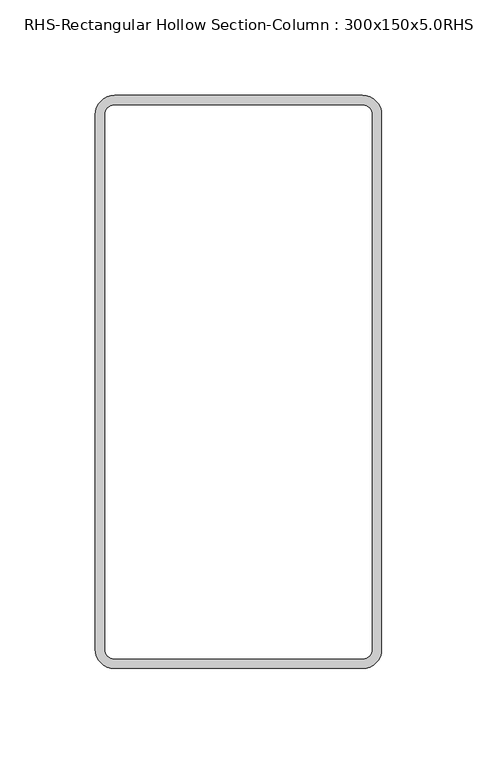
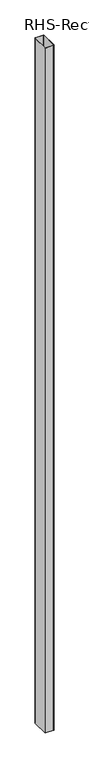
"""IFC4 building model written with IfcOpenShell, lengths in millimetres: column geometry, RHS-Rectangular Hollow Section-Column : 300x150x5.0RHS."""

from ifc_helpers import new_model, si_unit, point, frame, frame_2d, origin, place, context, project, spatial, polyline, circle_curve, trimmed, segment, composite_curve, outline, extrude, source, transform, mapped, element, save


def rhs_rectangular_hollow_section_column_300x150x5_0rhs_ee9d9ef0(model_context):
    return source(origin(), model_context, "Body", "SweptSolid", [
        extrude(outline(composite_curve([segment(trimmed(circle_curve(frame_2d((65.0, 140.0)), 10.0), [point((65.0, 150.0))], [point((75.0, 140.0))], False, "CARTESIAN"), True, "CONTINUOUS"), segment(polyline([(75.0, 140.0), (75.0, -140.0)]), True, "CONTINUOUS"), segment(trimmed(circle_curve(frame_2d((65.0, -140.0)), 10.0), [point((75.0, -140.0))], [point((65.0, -150.0))], False, "CARTESIAN"), True, "CONTINUOUS"), segment(polyline([(65.0, -150.0), (-65.0, -150.0)]), True, "CONTINUOUS"), segment(trimmed(circle_curve(frame_2d((-65.0, -140.0)), 10.0), [point((-65.0, -150.0))], [point((-75.0, -140.0))], False, "CARTESIAN"), True, "CONTINUOUS"), segment(polyline([(-75.0, -140.0), (-75.0, 140.0)]), True, "CONTINUOUS"), segment(trimmed(circle_curve(frame_2d((-65.0, 140.0)), 10.0), [point((-75.0, 140.0))], [point((-65.0, 150.0))], False, "CARTESIAN"), True, "CONTINUOUS"), segment(polyline([(-65.0, 150.0), (65.0, 150.0)]), True, "CONTINUOUS")], self_intersect=False), holes=[composite_curve([segment(polyline([(65.0, 145.0), (-65.0, 145.0)]), True, "CONTINUOUS"), segment(trimmed(circle_curve(frame_2d((-65.0, 140.0)), 5.0), [point((-65.0, 145.0))], [point((-70.0, 140.0))], True, "CARTESIAN"), True, "CONTINUOUS"), segment(polyline([(-70.0, 140.0), (-70.0, -140.0)]), True, "CONTINUOUS"), segment(trimmed(circle_curve(frame_2d((-65.0, -140.0)), 5.0), [point((-70.0, -140.0))], [point((-65.0, -145.0))], True, "CARTESIAN"), True, "CONTINUOUS"), segment(polyline([(-65.0, -145.0), (65.0, -145.0)]), True, "CONTINUOUS"), segment(trimmed(circle_curve(frame_2d((65.0, -140.0)), 5.0), [point((65.0, -145.0))], [point((70.0, -140.0))], True, "CARTESIAN"), True, "CONTINUOUS"), segment(polyline([(70.0, -140.0), (70.0, 140.0)]), True, "CONTINUOUS"), segment(trimmed(circle_curve(frame_2d((65.0, 140.0)), 5.0), [point((70.0, 140.0))], [point((65.0, 145.0))], True, "CARTESIAN"), True, "CONTINUOUS")], self_intersect=False)]), frame((0.0, 0.0, 25860.0), z_axis=(0.0, 0.0, 1.0), x_axis=(1.0, 0.0, 0.0)), (0.0, 0.0, 1.0), 12000.0),
    ])


if __name__ == "__main__":
    model = new_model("IFC4")
    model_context = context("Model", 3, world=origin())
    ifc_project = project(units=[si_unit("LENGTHUNIT", "METRE", prefix="MILLI")], contexts=[model_context])
    site = spatial("IfcSite", under=ifc_project)
    building = spatial("IfcBuilding", under=site)
    placement = place(None, origin())
    rhs_rectangular_hollow_section_column_300x150x5_0rhs_shape = rhs_rectangular_hollow_section_column_300x150x5_0rhs_ee9d9ef0(model_context)
    element("IfcColumn", 1, ObjectType="RHS-Rectangular Hollow Section-Column : 300x150x5.0RHS", at=placement, inside=building, context=model_context, shape_type="MappedRepresentation", body=[
        mapped(rhs_rectangular_hollow_section_column_300x150x5_0rhs_shape, transform((0.0, 0.0, 0.0), x_axis=(1.0, 0.0, 0.0), y_axis=(0.0, 1.0, 0.0), z_axis=(0.0, 0.0, 1.0))),
    ])
    save(model, "model.ifc")
